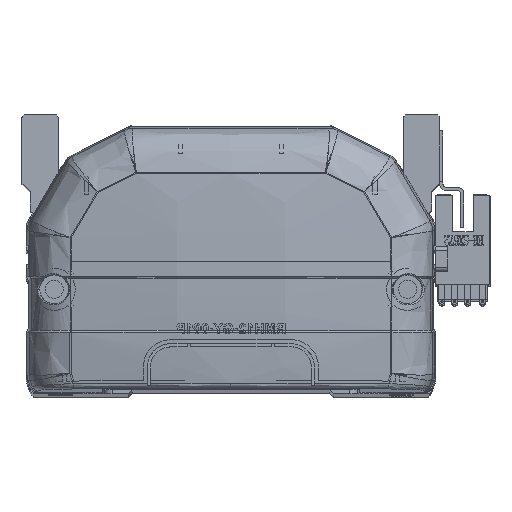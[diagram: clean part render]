
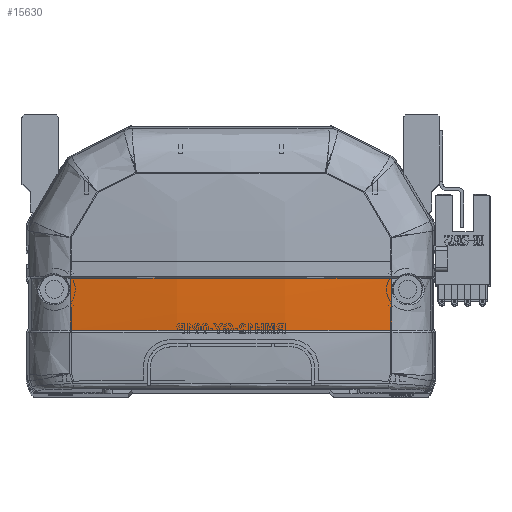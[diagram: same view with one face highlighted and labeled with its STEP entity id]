
A CAD part, top view. The second image highlights one B-rep face of the part: STEP entity #15630.
In plain terms, the highlighted free-form (B-spline) face has degree [3, 3] with [4, 4] control points.
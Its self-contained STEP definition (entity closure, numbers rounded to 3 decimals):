
#985 = CARTESIAN_POINT ( 'NONE',  ( -39.985, 15.83, -5.879 ) ) ;
#1712 = VERTEX_POINT ( 'NONE', #6179 ) ;
#2180 = CARTESIAN_POINT ( 'NONE',  ( 26.749, 28.706, -8.432 ) ) ;
#4970 = ORIENTED_EDGE ( 'NONE', *, *, #18189, .T. ) ;
#6179 = CARTESIAN_POINT ( 'NONE',  ( -39.963, 28.706, -6.372 ) ) ;
#6743 = CARTESIAN_POINT ( 'NONE',  ( -13.373, 28.707, -9.468 ) ) ;
#8664 = CARTESIAN_POINT ( 'NONE',  ( 39.985, 15.83, -5.879 ) ) ;
#8842 = CARTESIAN_POINT ( 'NONE',  ( 39.963, 28.706, -6.372 ) ) ;
#9001 = VERTEX_POINT ( 'NONE', #26916 ) ;
#10119 = CARTESIAN_POINT ( 'NONE',  ( 40.461, 28.832, -6.296 ) ) ;
#10955 = CARTESIAN_POINT ( 'NONE',  ( 13.375, 28.707, -9.468 ) ) ;
#13928 = B_SPLINE_CURVE_WITH_KNOTS ( 'NONE', 3,
 ( #42358, #14949, #51186, #28930, #55776, #46968, #23723, #28330, #51383, #985 ),
 .UNSPECIFIED., .F., .F.,
 ( 4, 2, 2, 2, 4 ),
 ( 0., 0.04, 0.06, 0.07, 0.08 ),
 .UNSPECIFIED. ) ;
#14485 = CARTESIAN_POINT ( 'NONE',  ( -40.461, 20.111, -6.066 ) ) ;
#14679 = CARTESIAN_POINT ( 'NONE',  ( 13.598, 19.918, -10.302 ) ) ;
#14949 = CARTESIAN_POINT ( 'NONE',  ( 26.761, 15.83, -7.945 ) ) ;
#15090 = CARTESIAN_POINT ( 'NONE',  ( -40.461, 28.832, -6.296 ) ) ;
#15630 = ADVANCED_FACE ( 'NONE', ( #47113 ), #55466, .F. ) ;
#15891 = VERTEX_POINT ( 'NONE', #8842 ) ;
#16212 = CARTESIAN_POINT ( 'NONE',  ( 39.985, 15.83, -5.879 ) ) ;
#17914 = CARTESIAN_POINT ( 'NONE',  ( 40.461, 15.757, -5.8 ) ) ;
#18189 = EDGE_CURVE ( 'NONE', #49664, #15891, #30045, .T. ) ;
#19078 = CARTESIAN_POINT ( 'NONE',  ( -13.598, 15.499, -10.032 ) ) ;
#19683 = CARTESIAN_POINT ( 'NONE',  ( 13.598, 28.769, -10.535 ) ) ;
#21238 = EDGE_LOOP ( 'NONE', ( #4970, #59249, #23456, #49483 ) ) ;
#23456 = ORIENTED_EDGE ( 'NONE', *, *, #44215, .T. ) ;
#23663 = CARTESIAN_POINT ( 'NONE',  ( -40.461, 24.47, -6.231 ) ) ;
#23723 = CARTESIAN_POINT ( 'NONE',  ( -26.721, 15.83, -7.624 ) ) ;
#24043 = CARTESIAN_POINT ( 'NONE',  ( 40.461, 24.47, -6.231 ) ) ;
#24260 = CARTESIAN_POINT ( 'NONE',  ( 13.598, 24.342, -10.47 ) ) ;
#24307 = CARTESIAN_POINT ( 'NONE',  ( -39.963, 28.706, -6.372 ) ) ;
#24982 = CARTESIAN_POINT ( 'NONE',  ( 39.973, 20.12, -6.142 ) ) ;
#25372 = CARTESIAN_POINT ( 'NONE',  ( 39.966, 24.413, -6.306 ) ) ;
#26916 = CARTESIAN_POINT ( 'NONE',  ( -39.985, 15.83, -5.879 ) ) ;
#28101 = CARTESIAN_POINT ( 'NONE',  ( -39.963, 28.706, -6.372 ) ) ;
#28330 = CARTESIAN_POINT ( 'NONE',  ( -33.365, 15.83, -6.848 ) ) ;
#28930 = CARTESIAN_POINT ( 'NONE',  ( -6.692, 15.83, -8.984 ) ) ;
#29383 = EDGE_CURVE ( 'NONE', #1712, #15891, #32970, .T. ) ;
#30045 = B_SPLINE_CURVE_WITH_KNOTS ( 'NONE', 3,
 ( #16212, #24982, #25372, #48225 ),
 .UNSPECIFIED., .F., .F.,
 ( 4, 4 ),
 ( 0., 1. ),
 .UNSPECIFIED. ) ;
#32970 = B_SPLINE_CURVE_WITH_KNOTS ( 'NONE', 3,
 ( #24307, #38137, #6743, #10955, #2180, #43303 ),
 .UNSPECIFIED., .F., .F.,
 ( 4, 2, 4 ),
 ( 0., 0.5, 1. ),
 .UNSPECIFIED. ) ;
#38096 = CARTESIAN_POINT ( 'NONE',  ( -13.598, 19.918, -10.302 ) ) ;
#38137 = CARTESIAN_POINT ( 'NONE',  ( -26.748, 28.706, -8.432 ) ) ;
#41916 = CARTESIAN_POINT ( 'NONE',  ( -39.966, 24.412, -6.306 ) ) ;
#42094 = CARTESIAN_POINT ( 'NONE',  ( 13.598, 15.499, -10.032 ) ) ;
#42358 = CARTESIAN_POINT ( 'NONE',  ( 39.985, 15.83, -5.879 ) ) ;
#43303 = CARTESIAN_POINT ( 'NONE',  ( 39.963, 28.706, -6.372 ) ) ;
#44215 = EDGE_CURVE ( 'NONE', #1712, #9001, #50116, .T. ) ;
#45948 = CARTESIAN_POINT ( 'NONE',  ( -39.973, 20.118, -6.142 ) ) ;
#46519 = CARTESIAN_POINT ( 'NONE',  ( -13.598, 24.342, -10.47 ) ) ;
#46968 = CARTESIAN_POINT ( 'NONE',  ( -23.389, 15.83, -7.947 ) ) ;
#47113 = FACE_OUTER_BOUND ( 'NONE', #21238, .T. ) ;
#48225 = CARTESIAN_POINT ( 'NONE',  ( 39.963, 28.706, -6.372 ) ) ;
#49483 = ORIENTED_EDGE ( 'NONE', *, *, #57748, .F. ) ;
#49664 = VERTEX_POINT ( 'NONE', #8664 ) ;
#49929 = CARTESIAN_POINT ( 'NONE',  ( 40.461, 20.111, -6.066 ) ) ;
#50116 = B_SPLINE_CURVE_WITH_KNOTS ( 'NONE', 3,
 ( #28101, #41916, #45948, #55749 ),
 .UNSPECIFIED., .F., .F.,
 ( 4, 4 ),
 ( 0., 1. ),
 .UNSPECIFIED. ) ;
#50925 = CARTESIAN_POINT ( 'NONE',  ( -40.461, 15.757, -5.8 ) ) ;
#51186 = CARTESIAN_POINT ( 'NONE',  ( 13.38, 15.83, -8.984 ) ) ;
#51318 = CARTESIAN_POINT ( 'NONE',  ( -13.598, 28.769, -10.535 ) ) ;
#51383 = CARTESIAN_POINT ( 'NONE',  ( -36.679, 15.83, -6.395 ) ) ;
#55466 =( BOUNDED_SURFACE ( )  B_SPLINE_SURFACE ( 3, 3, ( 
 ( #17914, #49929, #24043, #10119 ),
 ( #42094, #14679, #24260, #19683 ),
 ( #19078, #38096, #46519, #51318 ),
 ( #50925, #14485, #23663, #15090 ) ),
 .UNSPECIFIED., .F., .F., .F. ) 
 B_SPLINE_SURFACE_WITH_KNOTS ( ( 4, 4 ),
 ( 4, 4 ),
 ( 0., 1. ),
 ( 0., 1. ),
 .UNSPECIFIED. ) 
 GEOMETRIC_REPRESENTATION_ITEM ( )  RATIONAL_B_SPLINE_SURFACE ( (
 ( 1., 1., 1., 1.),
 ( 0.992, 0.992, 0.992, 0.992),
 ( 0.992, 0.992, 0.992, 0.992),
 ( 1., 1., 1., 1.) ) ) 
 REPRESENTATION_ITEM ( '' )  SURFACE ( )  );
#55749 = CARTESIAN_POINT ( 'NONE',  ( -39.985, 15.83, -5.879 ) ) ;
#55776 = CARTESIAN_POINT ( 'NONE',  ( -13.384, 15.83, -8.724 ) ) ;
#57748 = EDGE_CURVE ( 'NONE', #49664, #9001, #13928, .T. ) ;
#59249 = ORIENTED_EDGE ( 'NONE', *, *, #29383, .F. ) ;
